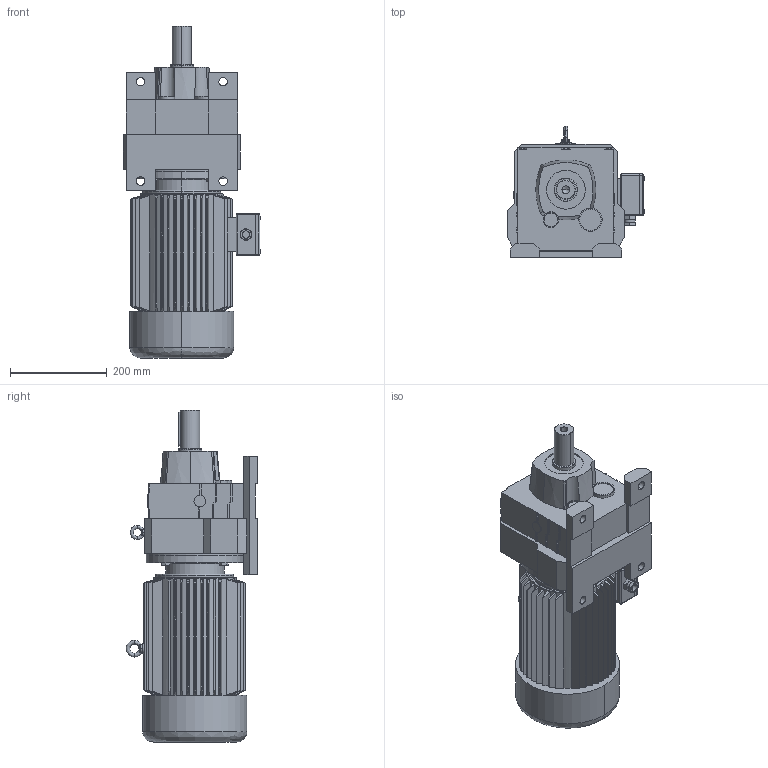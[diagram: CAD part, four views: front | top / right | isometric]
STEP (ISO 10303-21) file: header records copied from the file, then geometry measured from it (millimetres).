
FILE_DESCRIPTION (( 'STEP AP214' ), '1' );
FILE_NAME ('MR77.step', '2020-06-27T03:00:30', ( '' ), ( '' ), 'SwSTEP 2.0', 'SolidWorks 2016', '' );
FILE_SCHEMA (( 'AUTOMOTIVE_DESIGN' ));
Length unit declared in the file: millimetre
Products named in the file (1): MR77
Bounding box: 282.99 x 272 x 685 mm (x, y, z)
Volume: 19701257.5 mm3; surface area: 1009865.3 mm2
Topology: 3 solids, 3 shells, 934 faces, 2420 edges, 1534 vertices
Faces by surface type: plane 513, cone 162, bspline 130, cylinder 129
Entity records: 42734 total; most frequent: CARTESIAN_POINT 10923, ORIENTED_EDGE 4820, DIRECTION 3901, EDGE_CURVE 2410, VERTEX_POINT 1534, VECTOR 1313, LINE 1313, AXIS2_PLACEMENT_3D 1294
